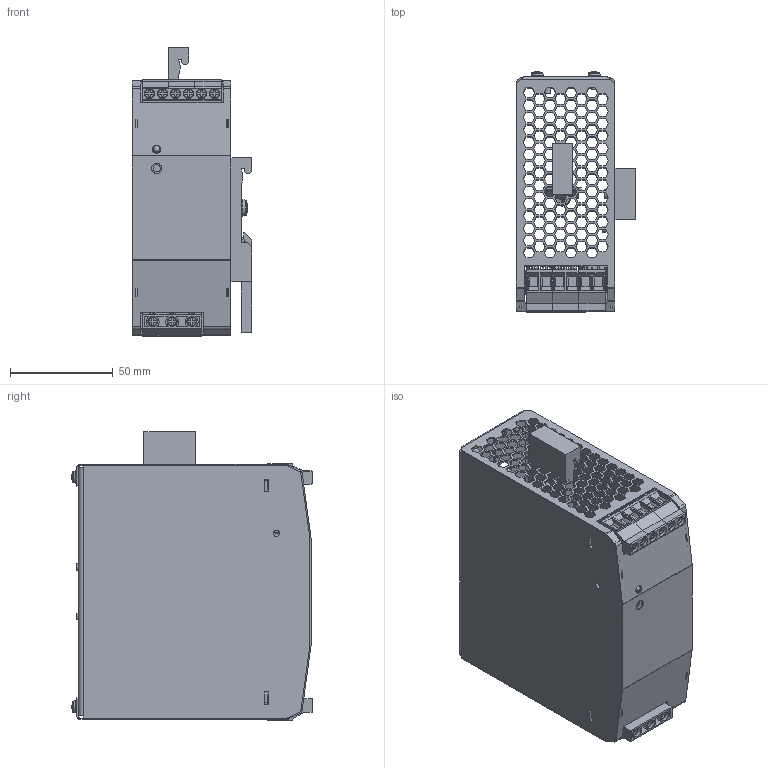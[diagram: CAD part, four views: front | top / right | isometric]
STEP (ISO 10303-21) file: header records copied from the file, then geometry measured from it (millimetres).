
FILE_DESCRIPTION( ( 'Unknown' ), '1' );
FILE_NAME( 'J:/DESBAKUP/3D DATA/TIB/TIB_240/Customer Model/TIB_240_Option.stp', 'Unknown', ( 'Unknown' ), ( 'Unknown' ), 'PSStep 14.0', 'Unknown', ' ' );
FILE_SCHEMA( ( 'AUTOMOTIVE_DESIGN { 1 0 10303 214 1 1 1 1 }' ) );
Length unit declared in the file: millimetre
Products named in the file (18): Assem1; MODULE; DIN_HOOK; DIN_LATCH; SCREW1-oa0
Bounding box: 58 x 117.09 x 140.55 mm (x, y, z)
Volume: 158673.9 mm3; surface area: 210149.7 mm2
Topology: 34 solids, 34 shells, 5278 faces, 15660 edges, 10530 vertices
Faces by surface type: plane 4494, cylinder 438, bspline 164, cone 102, torus 68, sphere 12
Full cylindrical faces by diameter (mm): 0.2 x8, 0.5 x4, 2 x2, 3 x22, 3.005 x12, 3.2 x18, 3.242 x4, 3.5 x18, 4 x8, 4.5 x6, 4.602 x12, 4.749 x12, 4.77 x6, 4.8 x12, 4.901 x12, 4.904 x12, 5 x2, 5.38 x2, 5.6 x10, 6.51 x2, 7.9 x4
Entity records: 116303 total; most frequent: CARTESIAN_POINT 25410, ORIENTED_EDGE 15112, DIRECTION 12634, EDGE_CURVE 7556, LINE 6406, VECTOR 6406, VERTEX_POINT 5177, EDGE_LOOP 3401
